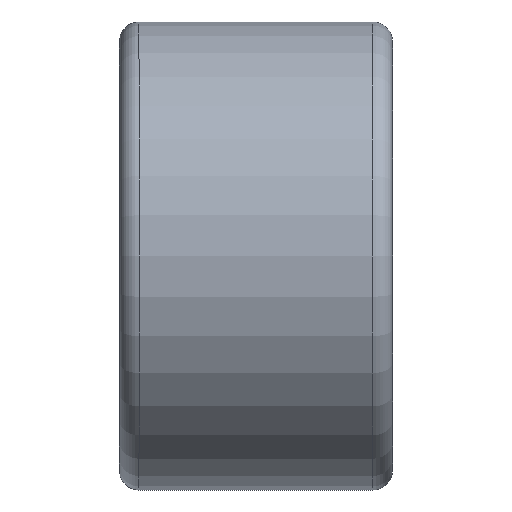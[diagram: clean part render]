
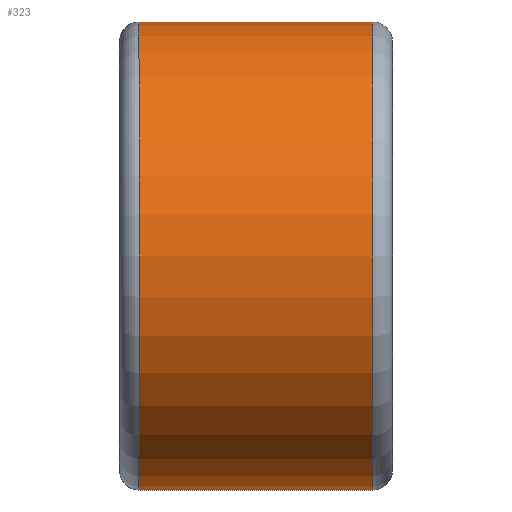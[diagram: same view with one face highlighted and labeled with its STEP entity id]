
A CAD part, front view. The second image highlights one B-rep face of the part: STEP entity #323.
In plain terms, the highlighted cylindrical face has radius 12 mm (diameter 24 mm), a full revolution.
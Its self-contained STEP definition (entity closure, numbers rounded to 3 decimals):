
#160=CYLINDRICAL_SURFACE('',#347,12.);
#168=FACE_BOUND('',#204,.T.);
#184=FACE_OUTER_BOUND('',#203,.T.);
#203=EDGE_LOOP('',(#288));
#204=EDGE_LOOP('',(#289));
#236=CIRCLE('',#346,12.);
#237=CIRCLE('',#348,12.);
#253=VERTEX_POINT('',#560);
#254=VERTEX_POINT('',#563);
#270=EDGE_CURVE('',#253,#253,#236,.T.);
#271=EDGE_CURVE('',#254,#254,#237,.T.);
#288=ORIENTED_EDGE('',*,*,#271,.F.);
#289=ORIENTED_EDGE('',*,*,#270,.F.);
#323=ADVANCED_FACE('',(#184,#168),#160,.T.);
#346=AXIS2_PLACEMENT_3D('',#561,#420,#421);
#347=AXIS2_PLACEMENT_3D('',#562,#422,#423);
#348=AXIS2_PLACEMENT_3D('',#564,#424,#425);
#420=DIRECTION('center_axis',(-1.,0.,0.));
#421=DIRECTION('ref_axis',(0.,-1.,0.));
#422=DIRECTION('center_axis',(1.,0.,0.));
#423=DIRECTION('ref_axis',(0.,1.,0.));
#424=DIRECTION('center_axis',(1.,0.,0.));
#425=DIRECTION('ref_axis',(0.,-1.,0.));
#560=CARTESIAN_POINT('',(-6.,12.,0.));
#561=CARTESIAN_POINT('Origin',(-6.,0.,0.));
#562=CARTESIAN_POINT('Origin',(0.,0.,
0.));
#563=CARTESIAN_POINT('',(6.,12.,0.));
#564=CARTESIAN_POINT('Origin',(6.,0.,0.));
